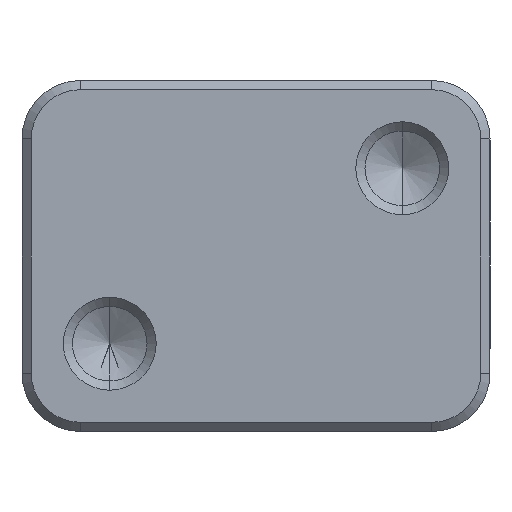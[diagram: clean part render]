
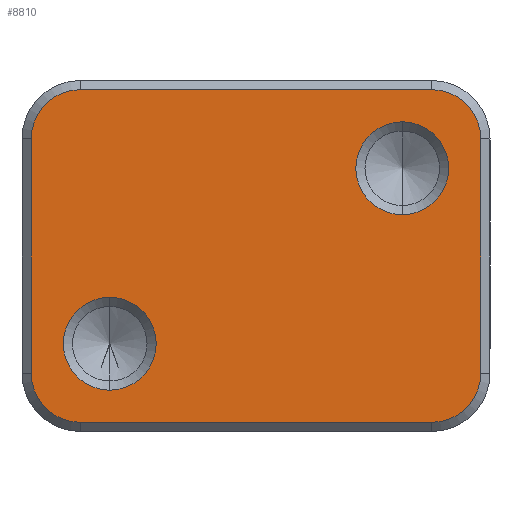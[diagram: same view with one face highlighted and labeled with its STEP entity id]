
A CAD part, front view. The second image highlights one B-rep face of the part: STEP entity #8810.
In plain terms, the highlighted planar face has unit normal (0, -1, 0).
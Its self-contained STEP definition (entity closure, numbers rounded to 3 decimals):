
#1 = FACE_OUTER_BOUND ( 'NONE', #15428, .T. ) ;
#397 = CIRCLE ( 'NONE', #7814, 6.35 ) ;
#410 = VERTEX_POINT ( 'NONE', #5882 ) ;
#458 = CARTESIAN_POINT ( 'NONE',  ( 24.001, 0., -22.762 ) ) ;
#501 = EDGE_CURVE ( 'NONE', #2979, #1860, #14736, .T. ) ;
#620 = CARTESIAN_POINT ( 'NONE',  ( -30.75, 0., -24.012 ) ) ;
#772 = EDGE_CURVE ( 'NONE', #15368, #13745, #9094, .T. ) ;
#788 = DIRECTION ( 'NONE',  ( 0., 0., 1. ) ) ;
#870 = DIRECTION ( 'NONE',  ( 0., 1., 0. ) ) ;
#888 = AXIS2_PLACEMENT_3D ( 'NONE', #13657, #11113, #6400 ) ;
#933 = AXIS2_PLACEMENT_3D ( 'NONE', #7076, #14406, #13298 ) ;
#945 = VECTOR ( 'NONE', #11434, 1000. ) ;
#1000 = EDGE_CURVE ( 'NONE', #6402, #15368, #7841, .T. ) ;
#1243 = CARTESIAN_POINT ( 'NONE',  ( 30.75, 0., -24.012 ) ) ;
#1521 = DIRECTION ( 'NONE',  ( -1., 0., 0. ) ) ;
#1860 = VERTEX_POINT ( 'NONE', #6233 ) ;
#1987 = EDGE_CURVE ( 'NONE', #4339, #2349, #12379, .T. ) ;
#2206 = VECTOR ( 'NONE', #13950, 1000. ) ;
#2349 = VERTEX_POINT ( 'NONE', #8773 ) ;
#2640 = VERTEX_POINT ( 'NONE', #12667 ) ;
#2707 = VECTOR ( 'NONE', #6354, 1000. ) ;
#2979 = VERTEX_POINT ( 'NONE', #3061 ) ;
#3061 = CARTESIAN_POINT ( 'NONE',  ( 30.75, 0., -16.012 ) ) ;
#3143 = EDGE_CURVE ( 'NONE', #10097, #6402, #11186, .T. ) ;
#3668 = PLANE ( 'NONE',  #14172 ) ;
#3746 = DIRECTION ( 'NONE',  ( 0., -1., 0. ) ) ;
#3942 = ORIENTED_EDGE ( 'NONE', *, *, #13094, .T. ) ;
#4033 = DIRECTION ( 'NONE',  ( 0., 0., -1. ) ) ;
#4339 = VERTEX_POINT ( 'NONE', #458 ) ;
#4621 = EDGE_CURVE ( 'NONE', #2640, #410, #12190, .T. ) ;
#4945 = FACE_BOUND ( 'NONE', #10509, .T. ) ;
#4957 = DIRECTION ( 'NONE',  ( 0., 0., 1. ) ) ;
#4962 = ORIENTED_EDGE ( 'NONE', *, *, #4621, .T. ) ;
#5310 = DIRECTION ( 'NONE',  ( 0., 0., -1. ) ) ;
#5328 = CIRCLE ( 'NONE', #13732, 6.75 ) ;
#5843 = DIRECTION ( 'NONE',  ( 0., 1., 0. ) ) ;
#5882 = CARTESIAN_POINT ( 'NONE',  ( -20.001, 0., -5.663 ) ) ;
#6233 = CARTESIAN_POINT ( 'NONE',  ( 30.75, 0., 15.99 ) ) ;
#6354 = DIRECTION ( 'NONE',  ( 0., 0., 1. ) ) ;
#6386 = CARTESIAN_POINT ( 'NONE',  ( -32., 0., -24.012 ) ) ;
#6400 = DIRECTION ( 'NONE',  ( 0., 0., -1. ) ) ;
#6402 = VERTEX_POINT ( 'NONE', #10939 ) ;
#6439 = ORIENTED_EDGE ( 'NONE', *, *, #1000, .T. ) ;
#6482 = CARTESIAN_POINT ( 'NONE',  ( -30.75, 0., -16.012 ) ) ;
#6544 = CIRCLE ( 'NONE', #15454, 6.35 ) ;
#6787 = CIRCLE ( 'NONE', #13153, 6.75 ) ;
#6860 = EDGE_CURVE ( 'NONE', #1860, #10097, #5328, .T. ) ;
#6883 = CARTESIAN_POINT ( 'NONE',  ( -20.001, 0., -12.012 ) ) ;
#7061 = EDGE_LOOP ( 'NONE', ( #4962, #7773 ) ) ;
#7076 = CARTESIAN_POINT ( 'NONE',  ( -24.001, 0., 15.99 ) ) ;
#7554 = CIRCLE ( 'NONE', #888, 6.35 ) ;
#7737 = ORIENTED_EDGE ( 'NONE', *, *, #9013, .F. ) ;
#7773 = ORIENTED_EDGE ( 'NONE', *, *, #13773, .T. ) ;
#7814 = AXIS2_PLACEMENT_3D ( 'NONE', #11901, #870, #9506 ) ;
#7841 = CIRCLE ( 'NONE', #933, 6.75 ) ;
#8354 = DIRECTION ( 'NONE',  ( 0., 0., 1. ) ) ;
#8773 = CARTESIAN_POINT ( 'NONE',  ( -24.001, 0., -22.762 ) ) ;
#8810 = ADVANCED_FACE ( 'NONE', ( #9821, #1, #4945 ), #3668, .T. ) ;
#9013 = EDGE_CURVE ( 'NONE', #2979, #4339, #6787, .T. ) ;
#9094 = LINE ( 'NONE', #620, #2206 ) ;
#9242 = CARTESIAN_POINT ( 'NONE',  ( -30.75, 0., 15.99 ) ) ;
#9506 = DIRECTION ( 'NONE',  ( 0., 0., -1. ) ) ;
#9537 = CARTESIAN_POINT ( 'NONE',  ( 24.001, 0., 22.74 ) ) ;
#9821 = FACE_BOUND ( 'NONE', #7061, .T. ) ;
#9904 = DIRECTION ( 'NONE',  ( 1., 0., 0. ) ) ;
#10097 = VERTEX_POINT ( 'NONE', #9537 ) ;
#10509 = EDGE_LOOP ( 'NONE', ( #3942, #11718 ) ) ;
#10670 = EDGE_CURVE ( 'NONE', #12955, #15217, #6544, .T. ) ;
#10939 = CARTESIAN_POINT ( 'NONE',  ( -24.001, 0., 22.74 ) ) ;
#11113 = DIRECTION ( 'NONE',  ( 0., 1., 0. ) ) ;
#11186 = LINE ( 'NONE', #13571, #11422 ) ;
#11229 = CARTESIAN_POINT ( 'NONE',  ( 20.001, 0., 11.99 ) ) ;
#11348 = DIRECTION ( 'NONE',  ( 0., 1., 0. ) ) ;
#11422 = VECTOR ( 'NONE', #1521, 1000. ) ;
#11434 = DIRECTION ( 'NONE',  ( -1., 0., 0. ) ) ;
#11718 = ORIENTED_EDGE ( 'NONE', *, *, #10670, .T. ) ;
#11737 = CARTESIAN_POINT ( 'NONE',  ( 20.001, 0., 5.641 ) ) ;
#11741 = CARTESIAN_POINT ( 'NONE',  ( 24.001, 0., -16.012 ) ) ;
#11784 = ORIENTED_EDGE ( 'NONE', *, *, #772, .T. ) ;
#11901 = CARTESIAN_POINT ( 'NONE',  ( 20.001, 0., 11.99 ) ) ;
#12006 = ORIENTED_EDGE ( 'NONE', *, *, #501, .T. ) ;
#12065 = EDGE_CURVE ( 'NONE', #2349, #13745, #14202, .T. ) ;
#12190 = CIRCLE ( 'NONE', #14482, 6.35 ) ;
#12243 = ORIENTED_EDGE ( 'NONE', *, *, #1987, .F. ) ;
#12379 = LINE ( 'NONE', #15094, #945 ) ;
#12544 = CARTESIAN_POINT ( 'NONE',  ( -24.001, 0., -16.012 ) ) ;
#12667 = CARTESIAN_POINT ( 'NONE',  ( -20.001, 0., -18.362 ) ) ;
#12934 = AXIS2_PLACEMENT_3D ( 'NONE', #12544, #11348, #4957 ) ;
#12955 = VERTEX_POINT ( 'NONE', #14131 ) ;
#13049 = ORIENTED_EDGE ( 'NONE', *, *, #3143, .T. ) ;
#13094 = EDGE_CURVE ( 'NONE', #15217, #12955, #397, .T. ) ;
#13153 = AXIS2_PLACEMENT_3D ( 'NONE', #11741, #15472, #788 ) ;
#13298 = DIRECTION ( 'NONE',  ( 0., 0., 1. ) ) ;
#13447 = DIRECTION ( 'NONE',  ( 0., -1., 0. ) ) ;
#13571 = CARTESIAN_POINT ( 'NONE',  ( -32., 0., 22.74 ) ) ;
#13657 = CARTESIAN_POINT ( 'NONE',  ( -20.001, 0., -12.012 ) ) ;
#13732 = AXIS2_PLACEMENT_3D ( 'NONE', #15761, #13447, #8354 ) ;
#13745 = VERTEX_POINT ( 'NONE', #6482 ) ;
#13772 = DIRECTION ( 'NONE',  ( 0., 1., 0. ) ) ;
#13773 = EDGE_CURVE ( 'NONE', #410, #2640, #7554, .T. ) ;
#13950 = DIRECTION ( 'NONE',  ( 0., 0., -1. ) ) ;
#14131 = CARTESIAN_POINT ( 'NONE',  ( 20.001, 0., 18.34 ) ) ;
#14172 = AXIS2_PLACEMENT_3D ( 'NONE', #6386, #3746, #9904 ) ;
#14202 = CIRCLE ( 'NONE', #12934, 6.75 ) ;
#14318 = ORIENTED_EDGE ( 'NONE', *, *, #12065, .F. ) ;
#14406 = DIRECTION ( 'NONE',  ( 0., -1., 0. ) ) ;
#14482 = AXIS2_PLACEMENT_3D ( 'NONE', #6883, #5843, #5310 ) ;
#14736 = LINE ( 'NONE', #1243, #2707 ) ;
#14945 = ORIENTED_EDGE ( 'NONE', *, *, #6860, .T. ) ;
#15094 = CARTESIAN_POINT ( 'NONE',  ( -32., 0., -22.762 ) ) ;
#15217 = VERTEX_POINT ( 'NONE', #11737 ) ;
#15368 = VERTEX_POINT ( 'NONE', #9242 ) ;
#15428 = EDGE_LOOP ( 'NONE', ( #7737, #12006, #14945, #13049, #6439, #11784, #14318, #12243 ) ) ;
#15454 = AXIS2_PLACEMENT_3D ( 'NONE', #11229, #13772, #4033 ) ;
#15472 = DIRECTION ( 'NONE',  ( 0., 1., 0. ) ) ;
#15761 = CARTESIAN_POINT ( 'NONE',  ( 24.001, 0., 15.99 ) ) ;
